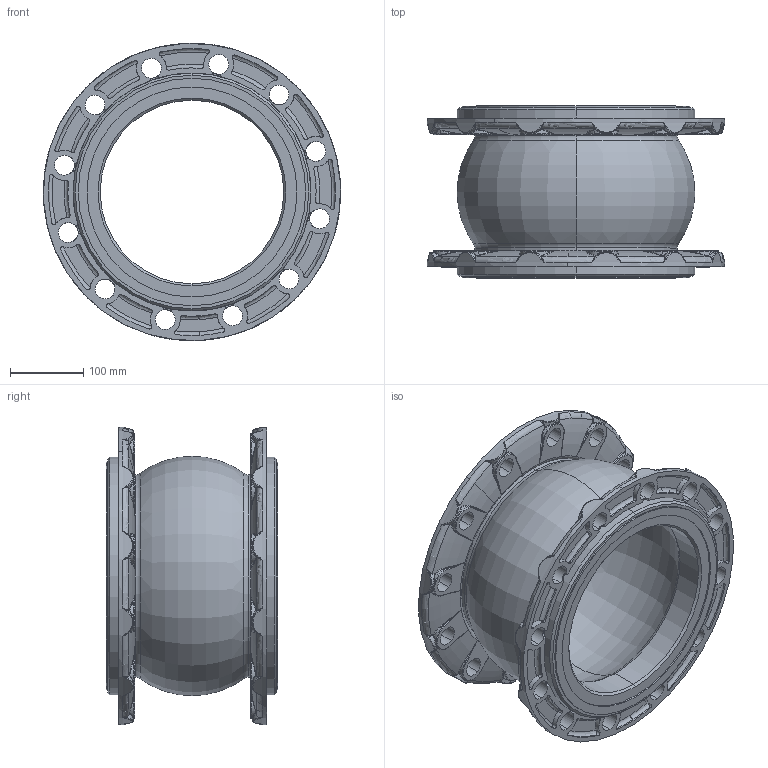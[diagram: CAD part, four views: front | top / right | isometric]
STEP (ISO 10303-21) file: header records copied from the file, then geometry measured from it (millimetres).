
FILE_DESCRIPTION (( 'STEP AP214' ), '1' );
FILE_NAME ('ＤＮ250单球橡胶软接.STEP', '2025-12-26T01:40:03', ( '' ), ( '' ), 'SwSTEP 2.0', 'SolidWorks 2024', '' );
FILE_SCHEMA (( 'AUTOMOTIVE_DESIGN' ));
Length unit declared in the file: millimetre
Products named in the file (3): DN250 单球橡胶; ＤＮ250单球橡胶软接; DN250新款球铁法兰
Assembly tree (3 placements, depth 2):
  ＤＮ250单球橡胶软接
    DN250 单球橡胶
    DN250新款球铁法兰  x2
Bounding box: 405 x 234 x 405 mm (x, y, z)
Volume: 5309314.2 mm3; surface area: 960802.2 mm2
Topology: 3 solids, 3 shells, 1142 faces, 2882 edges, 1656 vertices
Faces by surface type: cylinder 476, bspline 336, torus 166, plane 108, sphere 48, cone 8
Entity records: 28606 total; most frequent: CARTESIAN_POINT 15610, ORIENTED_EDGE 2898, DIRECTION 2546, EDGE_CURVE 1449, AXIS2_PLACEMENT_3D 1132, VERTEX_POINT 860, CIRCLE 695, EDGE_LOOP 633
